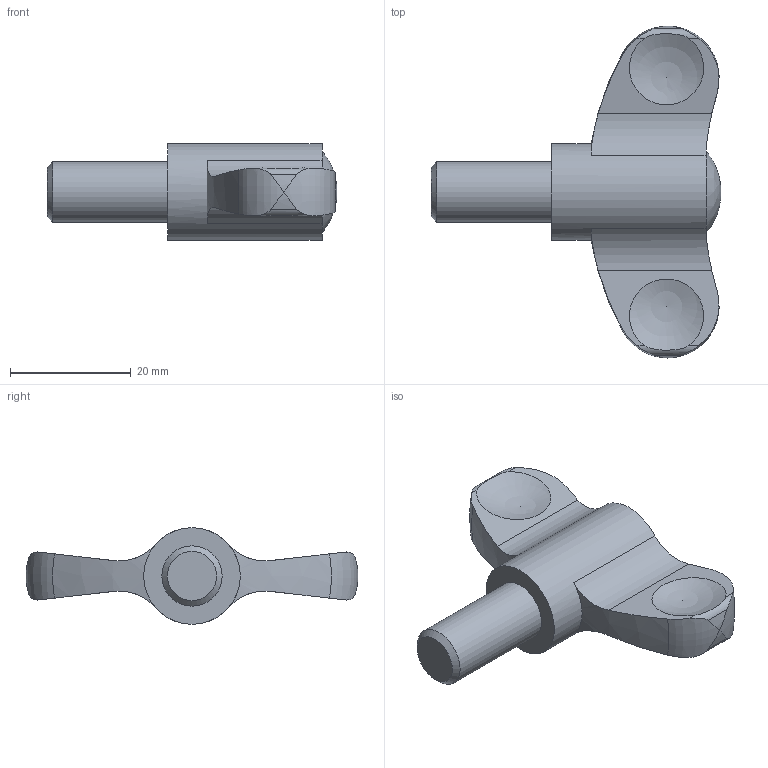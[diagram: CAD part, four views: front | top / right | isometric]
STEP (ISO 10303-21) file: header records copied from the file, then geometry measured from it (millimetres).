
FILE_DESCRIPTION( ( 'STEP AP203' ), '1' );
FILE_NAME( 'C:/Temp/Ganter_Step_05_03_2020/data/2_2/gn_633/Wing nut GN 633-55-M10-20-DGR.stp', '2020-03-05T12:21:06', ( 'License CC BY-ND 4.0' ), ( 'CADENAS' ), ' ', 'PARTsolutions', ' ' );
FILE_SCHEMA( ( 'CONFIG_CONTROL_DESIGN' ) );
Length unit declared in the file: millimetre
Products named in the file (1): _Wing nut GN 633-55-M10-20-DGR
Bounding box: 48 x 55 x 16 mm (x, y, z)
Volume: 10649.4 mm3; surface area: 4040.8 mm2
Topology: 1 solids, 1 shells, 31 faces, 97 edges, 64 vertices
Faces by surface type: cylinder 14, plane 6, bspline 4, sphere 4, torus 2, cone 1
Full cylindrical faces by diameter (mm): 10 x1, 16 x1
Entity records: 1486 total; most frequent: CARTESIAN_POINT 754, ORIENTED_EDGE 154, DIRECTION 110, EDGE_CURVE 77, VERTEX_POINT 59, AXIS2_PLACEMENT_3D 45, B_SPLINE_CURVE_WITH_KNOTS 40, EDGE_LOOP 36
